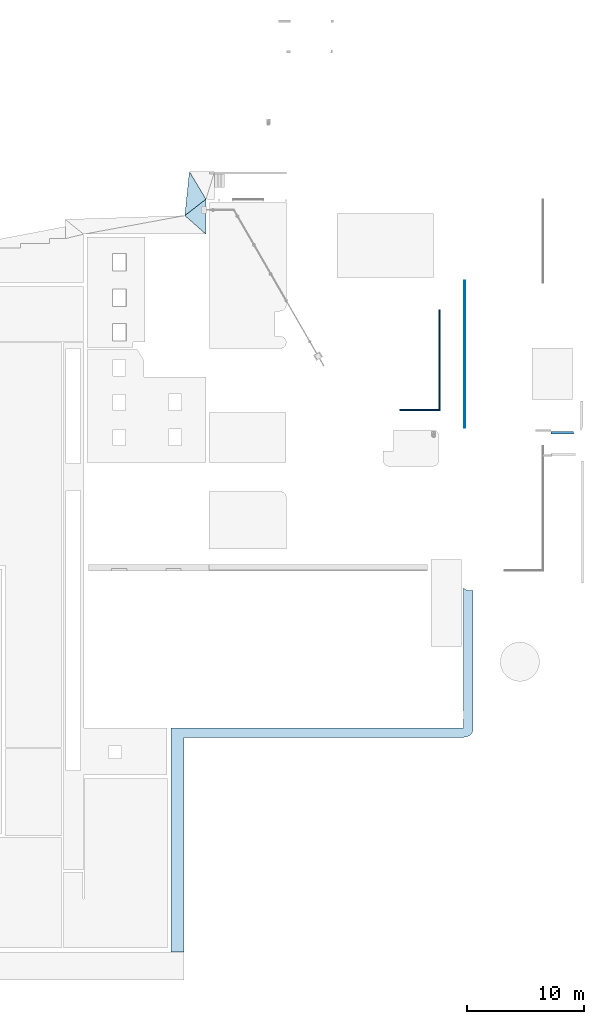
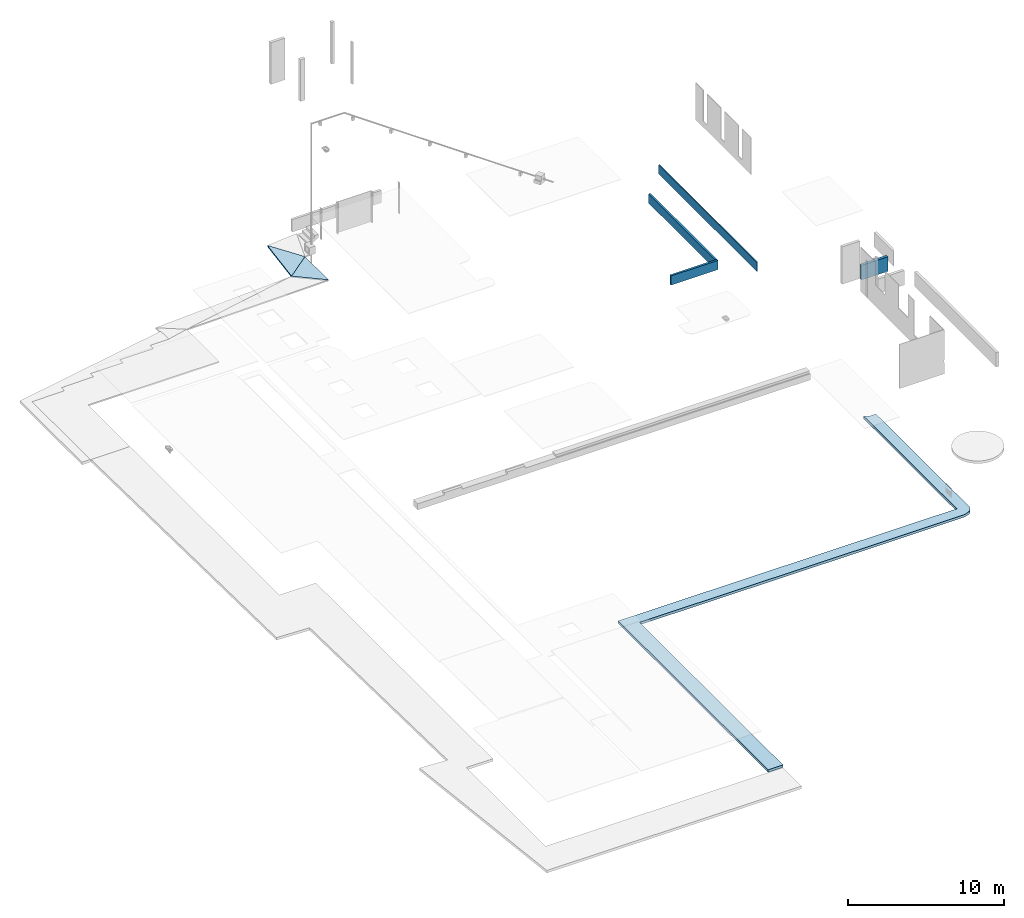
# One storey, part 1 of 6: 4 walls, 3 slabs, 1 element without a shape of its own.
"""IFC2X3 building model written with IfcOpenShell, lengths in metres."""

from ifc_helpers import new_model, entity, si_unit, converted_unit, derived_unit, direction, frame, frame_2d, origin, place, context, subcontext, project, spatial, polyline, circle_curve, parameter, trimmed, segment, composite_curve, rectangle, outline, extrude, clip, bounded_halfspace, material, layer, layer_set, layer_usage, type_object, element, aggregate, save


model = new_model("IFC2X3")

# Units and contexts
model_context = context("Model", 3, precision=1e-05, world=origin(), true_north=direction((6.12303176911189e-17, 1.0)))
body_context = subcontext(model_context, "Body", "Model", "MODEL_VIEW")
ifc_project = project(units=[si_unit("LENGTHUNIT", "METRE"), si_unit("AREAUNIT", "SQUARE_METRE"), si_unit("VOLUMEUNIT", "CUBIC_METRE"), converted_unit("PLANEANGLEUNIT", "DEGREE", entity("IfcRatioMeasure", 0.0174532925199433), si_unit("PLANEANGLEUNIT", "RADIAN"), dimensions=[0, 0, 0, 0, 0, 0, 0]), si_unit("MASSUNIT", "GRAM", prefix="KILO"), derived_unit("MASSDENSITYUNIT", [(si_unit("MASSUNIT", "GRAM", prefix="KILO"), 1), (si_unit("LENGTHUNIT", "METRE"), -3)]), derived_unit("MOMENTOFINERTIAUNIT", [(si_unit("LENGTHUNIT", "METRE"), 4)]), si_unit("TIMEUNIT", "SECOND"), si_unit("FREQUENCYUNIT", "HERTZ"), si_unit("THERMODYNAMICTEMPERATUREUNIT", "DEGREE_CELSIUS"), derived_unit("THERMALTRANSMITTANCEUNIT", [(si_unit("MASSUNIT", "GRAM", prefix="KILO"), 1), (si_unit("THERMODYNAMICTEMPERATUREUNIT", "KELVIN"), -1), (si_unit("TIMEUNIT", "SECOND"), -3)]), derived_unit("VOLUMETRICFLOWRATEUNIT", [(si_unit("LENGTHUNIT", "METRE"), 3), (si_unit("TIMEUNIT", "SECOND"), -1)]), si_unit("ELECTRICCURRENTUNIT", "AMPERE"), si_unit("ELECTRICVOLTAGEUNIT", "VOLT"), si_unit("POWERUNIT", "WATT"), si_unit("FORCEUNIT", "NEWTON", prefix="KILO"), si_unit("ILLUMINANCEUNIT", "LUX"), si_unit("LUMINOUSFLUXUNIT", "LUMEN"), si_unit("LUMINOUSINTENSITYUNIT", "CANDELA"), derived_unit("USERDEFINED", [(si_unit("MASSUNIT", "GRAM", prefix="KILO"), -1), (si_unit("LENGTHUNIT", "METRE"), -2), (si_unit("TIMEUNIT", "SECOND"), 3), (si_unit("LUMINOUSFLUXUNIT", "LUMEN"), 1)]), derived_unit("LINEARVELOCITYUNIT", [(si_unit("LENGTHUNIT", "METRE"), 1), (si_unit("TIMEUNIT", "SECOND"), -1)]), si_unit("PRESSUREUNIT", "PASCAL"), derived_unit("USERDEFINED", [(si_unit("LENGTHUNIT", "METRE"), -2), (si_unit("MASSUNIT", "GRAM", prefix="KILO"), 1), (si_unit("TIMEUNIT", "SECOND"), -2)]), derived_unit("LINEARFORCEUNIT", [(si_unit("MASSUNIT", "GRAM", prefix="KILO"), 1), (si_unit("LENGTHUNIT", "METRE"), 1), (si_unit("TIMEUNIT", "SECOND"), -2), (si_unit("LENGTHUNIT", "METRE"), -1)]), derived_unit("PLANARFORCEUNIT", [(si_unit("MASSUNIT", "GRAM", prefix="KILO"), 1), (si_unit("LENGTHUNIT", "METRE"), 1), (si_unit("TIMEUNIT", "SECOND"), -2), (si_unit("LENGTHUNIT", "METRE"), -2)])], contexts=[model_context])

# Site, building, storey
site_placement = place(None, origin())
site = spatial("IfcSite", under=ifc_project, at=site_placement, Name="Default", CompositionType="ELEMENT")
building_placement = place(site_placement, origin())
building = spatial("IfcBuilding", under=site, at=building_placement, CompositionType="ELEMENT")
storey_placement = place(building_placement, origin())
storey = spatial("IfcBuildingStorey", under=building, at=storey_placement, Name="Niveau 00", CompositionType="ELEMENT", Elevation=0.0)

# Slabs
slab_1_placement = place(storey_placement, frame((-48.9776769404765, -1.72236172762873, -0.2)))
slab_1 = element("IfcSlab", 1, at=slab_1_placement, inside=storey, Name="Sol:Générique 100 mm - Plein", ObjectType="Sol:Générique 100 mm - Plein", PredefinedType="NOTDEFINED")
ifc_material_1 = material(Name="Asphalte, bitume")
slab_type_1 = type_object("IfcSlabType", Name="Sol:Générique 100 mm - Plein", PredefinedType="ROOF")
slab_2_placement = place(slab_1_placement, origin())
slab_2 = element("IfcSlab", 2, at=slab_2_placement, type_object=slab_type_1, material=ifc_material_1, Name="Sol:Générique 100 mm - Plein", ObjectType="Sol:Générique 100 mm - Plein", PredefinedType="NOTDEFINED", context=body_context, shape_type="SweptSolid", body=[
    extrude(outline(polyline([(-0.628091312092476, 1.97640104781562), (-1.01672114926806, -1.80746726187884), (0.789712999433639, -0.402782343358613), (-0.628091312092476, 1.97640104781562)])), frame((22.3444462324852, 12.9498863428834, 0.369158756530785), z_axis=(-0.0345494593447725, 0.0088286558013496, 0.999363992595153), x_axis=(0.999402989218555, 0.000305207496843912, 0.0345481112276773)), (-0.0345481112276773, 0.00883392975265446, -0.999363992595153), 0.1),
])
slab_type_2 = type_object("IfcSlabType", Name="Sol:Générique 100 mm - Plein", PredefinedType="ROOF")
slab_3_placement = place(slab_1_placement, origin())
slab_3 = element("IfcSlab", 3, at=slab_3_placement, type_object=slab_type_2, material=ifc_material_1, Name="Sol:Générique 100 mm - Plein", ObjectType="Sol:Générique 100 mm - Plein", PredefinedType="NOTDEFINED", context=body_context, shape_type="SweptSolid", body=[
    extrude(outline(polyline([(-1.64796841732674, -0.0438155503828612), (0.158079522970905, -1.64095416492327), (0.158079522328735, 1.36136589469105), (-1.64796841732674, -0.0438155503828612)])), frame((22.9756688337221, 11.1859948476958, 0.395623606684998), z_axis=(-0.027684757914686, 0.0, 0.99961670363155), x_axis=(0.99961670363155, 0.0, 0.027684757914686)), (-0.027684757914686, 0.0, -0.99961670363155), 0.1),
])
aggregate(slab_1, [slab_2, slab_3])

# Slab
ifc_material_2 = material(Name="Fcarrelage 60x 60 vertical")
ifc_layer_1 = layer(ifc_material_2, 0.2)
ifc_layer_set_1 = layer_set([ifc_layer_1], Name="Sol:carrelage terrasse 200mm")
ifc_layer_usage_1 = layer_usage(ifc_layer_set_1, "AXIS3", "POSITIVE", 0.0)
slab_type_3 = type_object("IfcSlabType", Name="Sol:carrelage terrasse 200mm", PredefinedType="FLOOR", material=ifc_layer_set_1)
slab_4_placement = place(storey_placement, origin())
element("IfcSlab", 4, at=slab_4_placement, inside=storey, type_object=slab_type_3, material=ifc_layer_usage_1, Name="Sol:carrelage terrasse 200mm", ObjectType="Sol:carrelage terrasse 200mm", PredefinedType="FLOOR", context=body_context, shape_type="SweptSolid", body=[
    extrude(outline(composite_curve([segment(polyline([(16.006801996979, -18.7222254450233), (17.106801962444, -18.7222254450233)]), True, "CONTINUOUS"), segment(polyline([(17.106801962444, -18.7222254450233), (17.1068019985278, 0.509872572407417)]), True, "CONTINUOUS"), segment(polyline([(17.1068019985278, 0.509872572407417), (-7.97034644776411, 0.509872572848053)]), True, "CONTINUOUS"), segment(polyline([(-7.97034644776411, 0.509872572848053), (-7.9703464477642, 12.508837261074)]), True, "CONTINUOUS"), segment(trimmed(circle_curve(frame_2d((-8.50907811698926, 13.0185127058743), x_axis=(0.726425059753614, -0.687245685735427)), 0.741620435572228), [parameter(322.427110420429)], [parameter(0.0)], True, "PARAMETER"), False, "CONTINUOUS"), segment(polyline([(-8.39287601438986, 12.2860525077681), (-8.77576755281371, 12.2860525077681)]), True, "CONTINUOUS"), segment(polyline([(-8.77576755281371, 12.2860525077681), (-8.77576755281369, 0.5098725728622)]), True, "CONTINUOUS"), segment(trimmed(circle_curve(frame_2d((-8.06625077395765, 0.422903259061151), x_axis=(-0.992571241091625, 0.121664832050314)), 0.714827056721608), [parameter(0.0)], [parameter(46.5577437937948)], True, "PARAMETER"), True, "CONTINUOUS"), segment(trimmed(circle_curve(frame_2d((-8.21191552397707, 0.287742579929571), x_axis=(-0.784720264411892, -0.619850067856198)), 0.516567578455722), [parameter(0.0)], [parameter(33.5636821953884)], True, "PARAMETER"), True, "CONTINUOUS"), segment(trimmed(circle_curve(frame_2d((-7.88298891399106, 0.995915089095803), x_axis=(-0.378065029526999, -0.925779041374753)), 1.29522358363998), [parameter(0.0)], [parameter(22.6488333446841)], True, "PARAMETER"), True, "CONTINUOUS"), segment(polyline([(-7.87315643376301, -0.299271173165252), (0.520996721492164, -0.315582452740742)]), True, "CONTINUOUS"), segment(polyline([(0.520996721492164, -0.315582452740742), (16.006801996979, -0.315627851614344)]), True, "CONTINUOUS"), segment(polyline([(16.006801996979, -0.315627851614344), (16.006801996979, -18.7222254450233)]), True, "CONTINUOUS")], self_intersect=False)), frame((-11.7162947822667, -35.0189268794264, 0.21), z_axis=(0.0, 0.0, -1.0), x_axis=(-1.0, 0.0, 0.0)), (0.0, 0.0, 1.0), 0.2),
])

# Walls
ifc_material_3 = material(Name="Finition vertical béton")
ifc_layer_2 = layer(ifc_material_3, 0.03)
ifc_material_4 = material(Name="Maçonnerie - Voile BA")
ifc_layer_3 = layer(ifc_material_4, 0.17)
ifc_layer_set_2 = layer_set([ifc_layer_2, ifc_layer_3], Name="Mur de base:Mur EXE 200- Hach")
ifc_layer_usage_2 = layer_usage(ifc_layer_set_2, "AXIS2", "POSITIVE", -0.1)
wall_type_1 = type_object("IfcWallType", Name="Mur de base:Mur EXE 200- Hach", PredefinedType="STANDARD", material=ifc_layer_set_2)
wall_1_placement = place(storey_placement, frame((3.73474713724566, -9.20445698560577, 0.213308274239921)))
element("IfcWallStandardCase", 5, at=wall_1_placement, inside=storey, type_object=wall_type_1, material=ifc_layer_usage_2, Name="Mur de base:Mur EXE 200- Hach", ObjectType="Mur de base:Mur EXE 200- Hach", context=body_context, shape_type="SweptSolid", body=[
    extrude(outline(polyline([(1.96370114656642, -0.0999999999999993), (1.9618276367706, 0.100000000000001), (0.0, 0.1), (0.0, 0.0954766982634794), (0.0, -0.1), (1.96370114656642, -0.0999999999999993)])), origin(), (0.0, 0.0, 1.0), 1.13571909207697),
])
ifc_layer_4 = layer(ifc_material_4, 0.15)
ifc_layer_set_3 = layer_set([ifc_layer_4], Name="Mur de base:Ext. Voile BA 150")
ifc_layer_usage_3 = layer_usage(ifc_layer_set_3, "AXIS2", "POSITIVE", -0.075)
wall_type_2 = type_object("IfcWallType", Name="Mur de base:Ext. Voile BA 150", PredefinedType="STANDARD", material=ifc_layer_set_3)
wall_2_placement = place(storey_placement, frame((-5.80753173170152, 1.33292939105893, 3.15), z_axis=(0.0, 0.0, 1.0), x_axis=(0.0, -1.0, 0.0)))
element("IfcWallStandardCase", 6, at=wall_2_placement, inside=storey, type_object=wall_type_2, material=ifc_layer_usage_3, Name="Mur de base:Ext. Voile BA 150", ObjectType="Mur de base:Ext. Voile BA 150", context=body_context, shape_type="Clipping", body=[
    clip(extrude(rectangle(XDim=8.5120445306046, YDim=0.150000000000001, at=frame_2d((4.2560222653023, -9.71445146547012e-17), x_axis=(-1.0, 0.0))), origin(), (0.0, 0.0, 1.0), 0.721872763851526), bounded_halfspace(frame((0.0, -0.074999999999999, 0.721872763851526), z_axis=(0.0, 0.0, -1.0), x_axis=(-1.0, 0.0, 0.0)), True, frame((0.0, -0.074999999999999, 0.721872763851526)), polyline([(0.0, 0.0), (8.5120445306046, 0.0), (8.5120445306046, 0.149999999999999), (0.0, 0.149999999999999), (0.0, 0.0)]))),
])
ifc_layer_usage_4 = layer_usage(ifc_layer_set_3, "AXIS2", "POSITIVE", -0.075)
wall_3_placement = place(storey_placement, frame((-5.73253173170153, -7.25411513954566, 3.15), z_axis=(0.0, 0.0, 1.0), x_axis=(-1.0, 0.0, 0.0)))
element("IfcWallStandardCase", 7, at=wall_3_placement, inside=storey, type_object=wall_type_2, material=ifc_layer_usage_4, Name="Mur de base:Ext. Voile BA 150", ObjectType="Mur de base:Ext. Voile BA 150", context=body_context, shape_type="SweptSolid", body=[
    extrude(rectangle(XDim=3.48145743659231, YDim=0.150000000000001, at=frame_2d((1.74072871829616, -3.81639164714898e-16), x_axis=(-1.0, 0.0))), origin(), (0.0, 0.0, 1.0), 0.72),
])
ifc_material_5 = material(Name="Mur par défaut")
ifc_layer_5 = layer(ifc_material_5, 0.07)
ifc_layer_set_4 = layer_set([ifc_layer_5], Name="Mur de base:@_Générique - Int. 70 mm")
ifc_layer_usage_5 = layer_usage(ifc_layer_set_4, "AXIS2", "POSITIVE", -0.035)
wall_type_3 = type_object("IfcWallType", Name="Mur de base:@_Générique - Int. 70 mm", PredefinedType="STANDARD", material=ifc_layer_set_4)
wall_4_placement = place(storey_placement, frame((-3.65898917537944, 3.82088486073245, 3.15), z_axis=(0.0, 0.0, 1.0), x_axis=(0.0, -1.0, 0.0)))
element("IfcWallStandardCase", 8, at=wall_4_placement, inside=storey, type_object=wall_type_3, material=ifc_layer_usage_5, Name="Mur de base:@_Générique - Int. 70 mm", ObjectType="Mur de base:@_Générique - Int. 70 mm", context=body_context, shape_type="Clipping", body=[
    clip(extrude(rectangle(XDim=12.5799391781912, YDim=0.0700000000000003, at=frame_2d((6.2899695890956, -1.38777878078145e-17), x_axis=(-1.0, 0.0))), origin(), (0.0, 0.0, 1.0), 0.721872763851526), bounded_halfspace(frame((0.0, -0.0349999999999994, 0.721872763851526), z_axis=(0.0, 0.0, -1.0), x_axis=(-1.0, 0.0, 0.0)), True, frame((0.0, -0.0349999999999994, 0.721872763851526)), polyline([(0.0, 0.0), (12.5799391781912, 0.0), (12.5799391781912, 0.0699999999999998), (0.0, 0.0699999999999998), (0.0, 0.0)]))),
])

save(model, "model.ifc")
